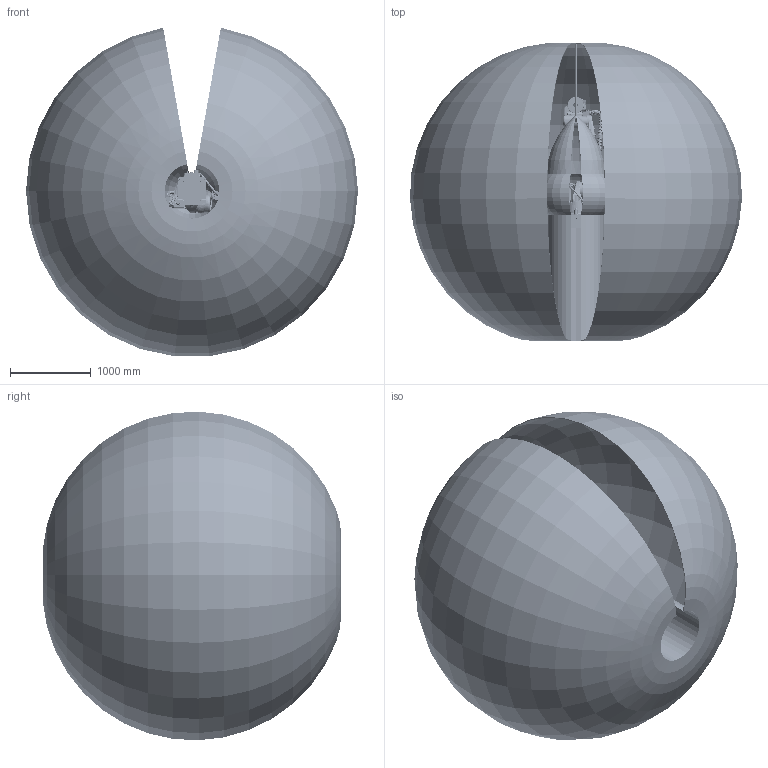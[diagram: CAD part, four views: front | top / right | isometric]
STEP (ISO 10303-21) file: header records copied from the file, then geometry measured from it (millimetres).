
FILE_DESCRIPTION (( 'STEP AP214' ), '1' );
FILE_NAME ('ER12H-2000V1.0 杅耀(漪婦釐)-2024312.STEP', '2024-03-15T08:31:02', ( '' ), ( '' ), 'SwSTEP 2.0', 'SolidWorks 2021', '' );
FILE_SCHEMA (( 'AUTOMOTIVE_DESIGN' ));
Length unit declared in the file: millimetre
Products named in the file (9): 蛌釱^ER12H-2000V1.0 杅耀(漪婦釐)-2024312; 湮旋^ER12H-2000V1.0 杅耀(漪婦釐)-2024312; 末端法兰^ER12H-2000V1.0 数模(含包络)-2024312; 苤旋^ER12H-2000V1.0 杅耀(漪婦釐)-2024312; 复件 电机座^ER12H-2000V1.0 数模(含包络)-2024312; ER12H-2000运动空间^ER12H-2000V1.0 数模(含包络)-2024312; 忒勂^ER12H-2000V1.0 杅耀(漪婦釐)-2024312; 复件 底座^ER12H-2000V1.0 数模(含包络)-2024312; ER12H-2000V1.0 杅耀(漪婦釐)-2024312
Assembly tree (8 placements, depth 2):
  ER12H-2000V1.0 杅耀(漪婦釐)-2024312
    复件 底座^ER12H-2000V1.0 数模(含包络)-2024312
    蛌釱^ER12H-2000V1.0 杅耀(漪婦釐)-2024312
    湮旋^ER12H-2000V1.0 杅耀(漪婦釐)-2024312
    复件 电机座^ER12H-2000V1.0 数模(含包络)-2024312
    苤旋^ER12H-2000V1.0 杅耀(漪婦釐)-2024312
    忒勂^ER12H-2000V1.0 杅耀(漪婦釐)-2024312
    末端法兰^ER12H-2000V1.0 数模(含包络)-2024312
    ER12H-2000运动空间^ER12H-2000V1.0 数模(含包络)-2024312
Bounding box: 4119.63 x 3704.67 x 4077.05 mm (x, y, z)
Volume: 580992721.8 mm3; surface area: 112543261.9 mm2
Topology: 38 solids, 77 shells, 8252 faces, 20113 edges, 12157 vertices
Faces by surface type: cylinder 2592, bspline 2282, plane 2258, torus 671, cone 378, sphere 71
Entity records: 474262 total; most frequent: CARTESIAN_POINT 229532, ORIENTED_EDGE 39693, DIRECTION 33617, EDGE_CURVE 19866, AXIS2_PLACEMENT_3D 13455, VERTEX_POINT 12143, EDGE_LOOP 8858, FACE_OUTER_BOUND 8252
